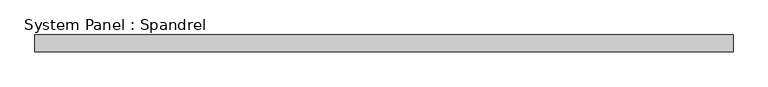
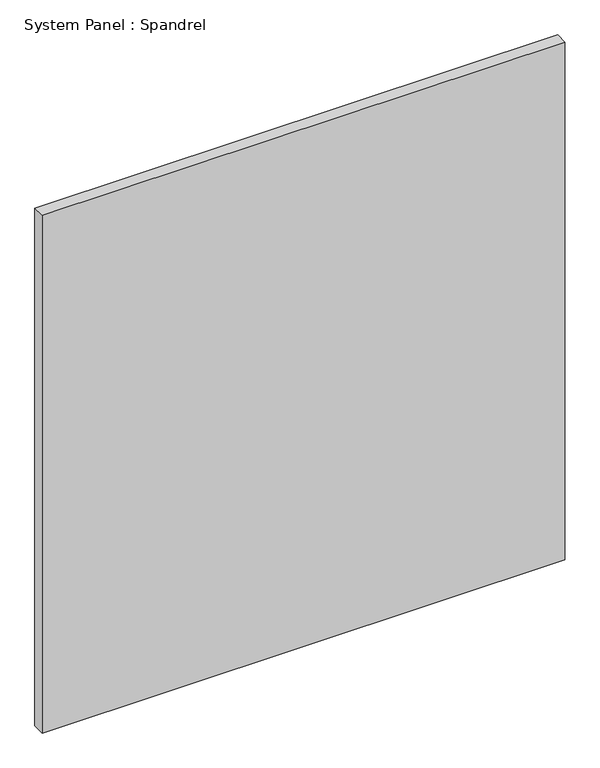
"""IFC4 building model written with IfcOpenShell, lengths in millimetres: plate geometry, System Panel : Spandrel."""

import ifcopenshell
import ifcopenshell.guid

model = None  # the IFC model being written
_history = None  # IfcOwnerHistory: only IFC2X3 demands one
_inside = {}  # id of a spatial element -> (the spatial element, [elements in it])
_under = {}  # id of a project, library or spatial element -> (it, [spatial elements below it])
_declared = {}  # id of a project -> (the project, [libraries it declares])
_typed = {}  # id of a type object -> (the type object, [elements of that type])
_made_of = {}  # id of a material, layer set ... -> (it, [elements and type objects made of it])


def new_model(schema):
    """Start an empty IFC model of exactly this schema.

    Asked for "IFC4X3", IfcOpenShell would pick the latest addendum, in which some entities
    have other attributes; the version numbers below select the first issue.
    IFC2X3 requires an IfcOwnerHistory on every rooted entity: one is made here for all.
    """
    global model, _history
    if schema == "IFC4X3":
        model = ifcopenshell.file(schema_version=(4, 3, 0, 0))
    else:
        model = ifcopenshell.file(schema=schema)
    _inside.clear()
    _under.clear()
    _declared.clear()
    _typed.clear()
    _made_of.clear()
    _history = None
    if model.schema == "IFC2X3":
        org = make("IfcOrganization", Name="unknown")
        user = make(
            "IfcPersonAndOrganization",
            ThePerson=make("IfcPerson", FamilyName="unknown"),
            TheOrganization=org,
        )
        app = make(
            "IfcApplication",
            ApplicationDeveloper=org,
            Version="unknown",
            ApplicationFullName="unknown",
            ApplicationIdentifier="unknown",
        )
        _history = make(
            "IfcOwnerHistory",
            OwningUser=user,
            OwningApplication=app,
            ChangeAction="ADDED",
            CreationDate=0,
        )
    return model


def make(cls, **values):
    """One entity of the class cls with the attributes given. An attribute that is None is left unset."""
    return model.create_entity(
        cls, **{name: value for name, value in values.items() if value is not None}
    )


def rooted(cls, **values):
    """An entity with a GlobalId (a new one), such as an element, a storey or a relation."""
    return make(cls, GlobalId=ifcopenshell.guid.new(), OwnerHistory=_history, **values)


def si_unit(unit_type, name, prefix=None):
    """IfcSIUnit, for example si_unit("LENGTHUNIT", "METRE", prefix="MILLI")."""
    return make("IfcSIUnit", UnitType=unit_type, Prefix=prefix, Name=name)


def assignment(units):
    """IfcUnitAssignment: the units of a project."""
    return None if units is None else make("IfcUnitAssignment", Units=units)


def point(xyz):
    """IfcCartesianPoint."""
    return None if xyz is None else make("IfcCartesianPoint", Coordinates=xyz)


def direction(xyz):
    """IfcDirection."""
    return None if xyz is None else make("IfcDirection", DirectionRatios=xyz)


def frame(location, z_axis=None, x_axis=None):
    """IfcAxis2Placement3D, a coordinate frame: its origin and axes. An axis left out is left unset."""
    return make(
        "IfcAxis2Placement3D",
        Location=point(location),
        Axis=direction(z_axis),
        RefDirection=direction(x_axis),
    )


def origin():
    """The frame at (0, 0, 0) with its axes left unset."""
    return frame((0.0, 0.0, 0.0))


def origin_with_axes():
    """The frame at (0, 0, 0) with the z axis (0, 0, 1) and the x axis (1, 0, 0) written out."""
    return frame((0.0, 0.0, 0.0), z_axis=(0.0, 0.0, 1.0), x_axis=(1.0, 0.0, 0.0))


def place(relative_to, where):
    """IfcLocalPlacement: puts the frame where relative to a parent placement (None: the world)."""
    return make(
        "IfcLocalPlacement", PlacementRelTo=relative_to, RelativePlacement=where
    )


def context(
    kind, dimensions, precision=None, world=None, true_north=None, identifier=None
):
    """IfcGeometricRepresentationContext, for example the 3D "Model" context."""
    return make(
        "IfcGeometricRepresentationContext",
        ContextIdentifier=identifier,
        ContextType=kind,
        CoordinateSpaceDimension=dimensions,
        Precision=precision,
        WorldCoordinateSystem=world,
        TrueNorth=true_north,
    )


def project(units=None, contexts=None):
    """IfcProject with its units and contexts."""
    return rooted(
        "IfcProject",
        Name="project",
        RepresentationContexts=contexts,
        UnitsInContext=assignment(units),
    )


def spatial(cls, under=None, at=None, **own):
    """A site, building, storey or space (cls), placed at a placement, below another one or the project."""
    s = rooted(cls, ObjectPlacement=at, **own)
    if under is not None:
        _under.setdefault(under.id(), (under, []))[1].append(s)
    return s


def polyline(points):
    """IfcPolyline through the points."""
    return make("IfcPolyline", Points=[point(p) for p in points])


def outline(outer, holes=None, kind="AREA"):
    """IfcArbitraryClosedProfileDef: a profile drawn as a closed curve; with holes, ...WithVoids."""
    if holes is None:
        return make("IfcArbitraryClosedProfileDef", ProfileType=kind, OuterCurve=outer)
    return make(
        "IfcArbitraryProfileDefWithVoids",
        ProfileType=kind,
        OuterCurve=outer,
        InnerCurves=holes,
    )


def extrude(swept, where, along, depth):
    """IfcExtrudedAreaSolid: the profile swept, set in the frame where, extruded along a direction by depth."""
    return make(
        "IfcExtrudedAreaSolid",
        SweptArea=swept,
        Position=where,
        ExtrudedDirection=direction(along),
        Depth=depth,
    )


def shape(context_of_items, identifier, shape_type, items):
    """IfcShapeRepresentation: the items that make up one representation, for example the "Body"."""
    return make(
        "IfcShapeRepresentation",
        ContextOfItems=context_of_items,
        RepresentationIdentifier=identifier,
        RepresentationType=shape_type,
        Items=items,
    )


def source(mapping_origin, context_of_items, identifier, shape_type, items):
    """IfcRepresentationMap: a shape defined once, which mapped items show again and again."""
    return make(
        "IfcRepresentationMap",
        MappingOrigin=mapping_origin,
        MappedRepresentation=shape(context_of_items, identifier, shape_type, items),
    )


def transform(
    local_origin,
    x_axis=None,
    y_axis=None,
    z_axis=None,
    scale=None,
    scale2=None,
    scale3=None,
    uniform=True,
):
    """IfcCartesianTransformationOperator3D, or its non-uniform kind. x_axis, y_axis, z_axis: its Axis1, 2, 3."""
    if uniform:
        return make(
            "IfcCartesianTransformationOperator3D",
            Axis1=direction(x_axis),
            Axis2=direction(y_axis),
            LocalOrigin=point(local_origin),
            Scale=scale,
            Axis3=direction(z_axis),
        )
    return make(
        "IfcCartesianTransformationOperator3DnonUniform",
        Axis1=direction(x_axis),
        Axis2=direction(y_axis),
        LocalOrigin=point(local_origin),
        Scale=scale,
        Axis3=direction(z_axis),
        Scale2=scale2,
        Scale3=scale3,
    )


def mapped(mapping_source, mapping_target):
    """IfcMappedItem: shows the shape of a source again, moved by a transform."""
    return make(
        "IfcMappedItem", MappingSource=mapping_source, MappingTarget=mapping_target
    )


def made_of(thing, what):
    """Note that an element or type object is made of a material, layer set ...; save() writes the relation."""
    if what is not None:
        _made_of.setdefault(what.id(), (what, []))[1].append(thing)
    return thing


def element(
    cls,
    number,
    at=None,
    inside=None,
    cuts=None,
    type_object=None,
    material=None,
    context=None,
    identifier="Body",
    shape_type=None,
    held_by="IfcProductDefinitionShape",
    body=None,
    shapes=None,
    **own,
):
    """One element of the class cls, such as IfcWall. Its Tag is "e" and its number.

    at: its placement. inside: the storey or other place that contains it. cuts: it is an
    opening in that element (IfcRelVoidsElement). A single representation is given by context,
    identifier, shape_type and body (its items); several are given by shapes. held_by: the class
    of the entity that holds the representations. save() writes the other relations.
    """
    e = rooted(cls, Tag="e%d" % number, ObjectPlacement=at, **own)
    if body is not None:
        shapes = [shape(context, identifier, shape_type, body)]
    if shapes is not None:
        e.Representation = make(held_by, Representations=shapes)
    if inside is not None:
        _inside.setdefault(inside.id(), (inside, []))[1].append(e)
    if cuts is not None:
        rooted(
            "IfcRelVoidsElement", RelatingBuildingElement=cuts, RelatedOpeningElement=e
        )
    if type_object is not None:
        _typed.setdefault(type_object.id(), (type_object, []))[1].append(e)
    return made_of(e, material)


def aggregate(whole, parts):
    """IfcRelAggregates: a whole, such as a stair, and the parts it consists of."""
    return rooted("IfcRelAggregates", RelatingObject=whole, RelatedObjects=parts)


def save(model, path):
    """Write the relations noted so far, then the file.

    IfcRelAggregates (storeys below a building ...), IfcRelContainedInSpatialStructure (elements
    in a storey), IfcRelDefinesByType, IfcRelAssociatesMaterial and IfcRelDeclares: one each for
    every whole, place, type object, material and project.
    """
    for whole, parts in _under.values():
        aggregate(whole, parts)
    for where, things in _inside.values():
        rooted(
            "IfcRelContainedInSpatialStructure",
            RelatedElements=things,
            RelatingStructure=where,
        )
    for kind, things in _typed.values():
        rooted("IfcRelDefinesByType", RelatedObjects=things, RelatingType=kind)
    for what, things in _made_of.values():
        rooted("IfcRelAssociatesMaterial", RelatedObjects=things, RelatingMaterial=what)
    for by, libraries in _declared.values():
        rooted("IfcRelDeclares", RelatingContext=by, RelatedDefinitions=libraries)
    model.write(path)


def system_panel_spandrel_7188b481(model_context):
    return source(origin(), model_context, "Body", "SweptSolid", [
        extrude(outline(polyline([(524.9999999, 0.0), (-524.9999999, 0.0), (-524.9999999, 25.0), (524.9999999, 25.0), (524.9999999, 0.0)])), origin_with_axes(), (0.0, 0.0, 1.0), 1100.0),
    ])


if __name__ == "__main__":
    model = new_model("IFC4")
    model_context = context("Model", 3, world=origin())
    ifc_project = project(units=[si_unit("LENGTHUNIT", "METRE", prefix="MILLI")], contexts=[model_context])
    site = spatial("IfcSite", under=ifc_project)
    building = spatial("IfcBuilding", under=site)
    placement = place(None, origin())
    system_panel_spandrel_shape = system_panel_spandrel_7188b481(model_context)
    element("IfcPlate", 1, ObjectType="System Panel : Spandrel", at=placement, inside=building, context=model_context, shape_type="MappedRepresentation", body=[
        mapped(system_panel_spandrel_shape, transform((0.0, 0.0, 0.0), x_axis=(1.0, 0.0, 0.0), y_axis=(0.0, 1.0, 0.0), z_axis=(0.0, 0.0, 1.0))),
    ])
    save(model, "model.ifc")
